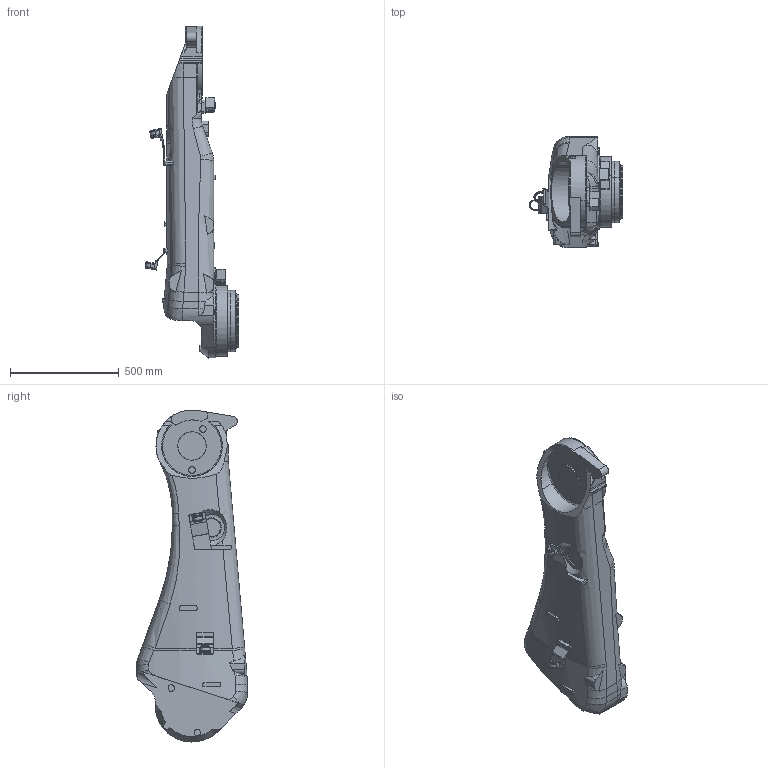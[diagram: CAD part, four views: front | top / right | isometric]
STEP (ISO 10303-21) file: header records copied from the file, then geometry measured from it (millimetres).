
FILE_DESCRIPTION(('CATIA V5 STEP Exchange'),'2;1');
FILE_NAME('Z:\ROBOT\CATIA06\products\SRA\SRA240L-01\Assy\FTP\catia\SRA240L-01_J2.stp','2023-04-03T10:18:21+00:00',('none'),('none'),'CATIA Version 5-6 Release 2016 SP3','CATIA V5 STEP AP203','none');
FILE_SCHEMA(('CONFIG_CONTROL_DESIGN'));
Length unit declared in the file: millimetre
Products named in the file (1): SRA240L-01_J2
Bounding box: 431.31 x 510 x 1525.42 mm (x, y, z)
Volume: 31494630.1 mm3; surface area: 2865792.7 mm2
Topology: 1 solids, 1 shells, 817 faces, 2115 edges, 1307 vertices
Faces by surface type: cylinder 315, plane 275, revolution 141, bspline 86
Entity records: 34185 total; most frequent: CARTESIAN_POINT 15905, ORIENTED_EDGE 4180, DIRECTION 2835, EDGE_CURVE 2090, VERTEX_POINT 1307, AXIS2_PLACEMENT_3D 1192, VECTOR 913, LINE 913
